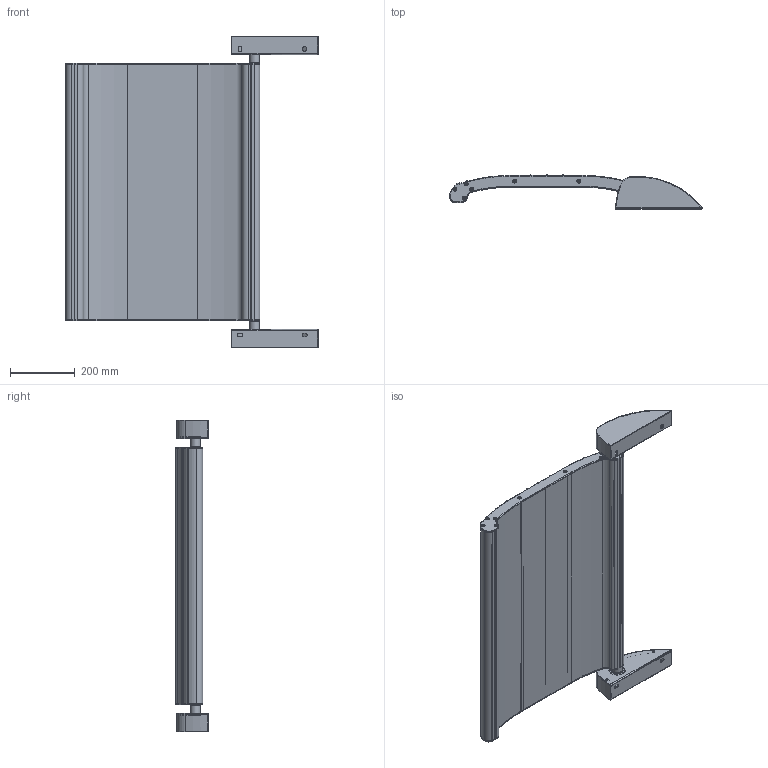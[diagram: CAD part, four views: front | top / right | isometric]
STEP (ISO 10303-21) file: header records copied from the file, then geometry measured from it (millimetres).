
FILE_DESCRIPTION((''),'2;1');
FILE_NAME('M:\Standardvarer\Pusleborde\659 Dan Dryer Sikkerhedspuslebord 790 mm\Tegninger\Public 3D files\659 DAN DRYER Safety baby changing table - folded up.stp','2009-12-22T15:28:14',('Dan Dryer'),(''),'Autodesk Inventor 2010','Autodesk Inventor 2010','');
FILE_SCHEMA(('AUTOMOTIVE_DESIGN { 1 0 10303 214 1 1 1 1 }'));
Length unit declared in the file: millimetre
Products named in the file (24): 659 DAN DRYER Safety baby changing table; 2010-202; 2010-107; 2010-104; 2010-105; 2010-102; 2010-201; 2010-106; 2010-205; 2010-110; 2010-108A; 2010-109; 2010-206; 2010-108B; 2010-111; 2010-203; 2010-114; 2010-112; 2010-204; 2010-113; 2010-207; 2010-103; 20053; 20044
Assembly tree (53 placements, depth 3):
  659 DAN DRYER Safety baby changing table
    2010-202
      2010-107
      2010-104
      2010-105
      2010-102
    2010-201
      2010-106
      2010-104
      2010-105
      2010-102
    2010-205
      2010-110
      2010-108A
      2010-109
    2010-206
      2010-108B
      2010-109
      2010-111
    2010-203
      2010-114
      2010-112
    2010-204
      2010-112
      2010-113
    2010-207
    2010-103  x2
    20053  x20
    20044  x6
Bounding box: 782.36 x 103.95 x 964 mm (x, y, z)
Volume: 4506287 mm3; surface area: 3098070.9 mm2
Topology: 47 solids, 47 shells, 1296 faces, 3273 edges, 2088 vertices
Faces by surface type: cylinder 734, plane 255, bspline 208, cone 50, torus 49
Full cylindrical faces by diameter (mm): 4 x6, 5 x2, 6 x20, 6.1 x2, 6.5 x10, 7.8 x6, 11.2 x20, 25 x2, 25.1 x1, 26 x2, 30 x2, 36 x2, 42.1 x4, 44.5 x2, 48 x2, 52 x2
Entity records: 28524 total; most frequent: CARTESIAN_POINT 7891, DIRECTION 4482, ORIENTED_EDGE 4022, EDGE_CURVE 2011, AXIS2_PLACEMENT_3D 1827, VERTEX_POINT 1321, CIRCLE 1145, EDGE_LOOP 976
